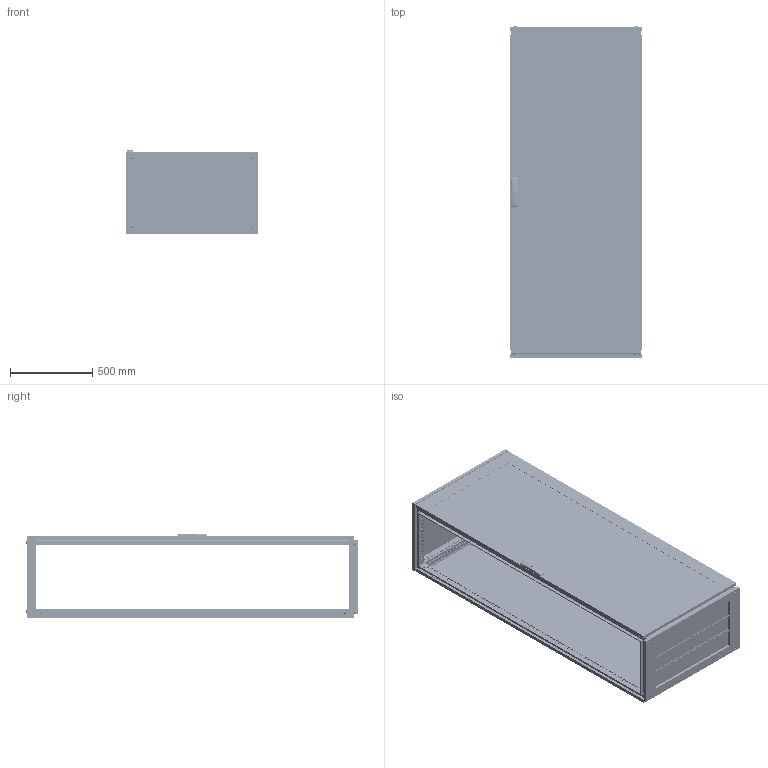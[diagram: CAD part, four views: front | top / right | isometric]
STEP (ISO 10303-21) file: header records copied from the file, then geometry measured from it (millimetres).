
FILE_DESCRIPTION (( 'STEP AP203' ), '1' );
FILE_NAME ('R5CQEN2085AX.STEP', '2025-05-07T12:09:09', ( '' ), ( '' ), 'SwSTEP 2.0', 'SolidWorks 2022', '' );
FILE_SCHEMA (( 'CONFIG_CONTROL_DESIGN' ));
Length unit declared in the file: millimetre
Products named in the file (65): M6x10 DIN 7500 M Torx cl.5.8 Zinc_straight; TPA.08.0084.00.00.0 simple; R5CQEN2085AX; RB.2969.00.00.0 СБ simple; TPA.08.0139.00.03.0; М6х12 A5100231_straight; RB.1867.01.01.0 simple_-40; TPA.08.0139.00.01.0 simple; Pressing stud FH-M6-12_M6x12mm; RB.0528.00.01.0 simple_-05; RB.1633.00.01.0 simple_-03; RB.2686.00.00.0 simple; M6x10 DIN 912 HX cl.8,8 Zinc_straight; RB.1957.00.00.0 simple_-10; R5NCPTE - Assem simple_R5NCPTE2080; 4.8x13 DIN 7981 PH Zinc_straight; PF 7x14 CRE simple_2000x0800; RB.2680.00.02.0 simple; RB.2357.00.00.0 simple_-05; M8x12 AC00C476 cl.8,8 Zinc_stright; RB.2680.00.01.0 simple; 7 DIN 6799 Zinc; R5NCRE-Assem simple_R5NCRE2080; M12x16 ISO 7380-1 HX cl.4,8 Zinc_straight; RB.2755.00.00.0 СБ simple_-19; RB.2455.00.00.0 simple_-03; 4,0x16 F Torx Zinc (ART 88200)_thread; RB.2680.00.00.0 СБ simple; AC00C446-R; M6x15 Erickson cl.4,8 Zinc; RB.2172.00.00.1 simple; TPA.08.0083.00.00.0 simple; R5NKTB - Assem simple_H=2000 R5NKTB85; RB.2685.00.00.0 simple_-01; Glass CPTE_2000x0800; RB.2499.01.00.0 СБ simple_-18; RB.2052.00.00.0 СБ simple_-24; RB.2457.00.00.0 СБ simple_-19; PF 7,5x15 CPE simple_2000x0800; RB.0528.04.01.0 simple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
Assembly tree (173 placements, depth 5):
  R5CQEN2085AX
    R5NCPTE - Assem simple_R5NCPTE2080
      RB.0562.00.00.0 СБ simple_-16
        RB.0562.01.00.0 СБ simple_-16
          RB.0562.01.01.0 simple_-16
          М6х12 A5100231_straight  x7
          RB.2702.00.00.0 simple  x4
          PF 7,5x15 CPE simple_2000x0800
          Glass CPTE_2000x0800
          Glue CPTE simple_2000x0800
        Square cap 20x20 simple  x2
        M6x15 Erickson cl.4,8 Zinc  x2
        RB.0528.00.01.0 simple_-05  x2
        ATOS Traction guide ILY03.35  x4
        RB.2357.00.00.0 simple_-05
        RB.2680.00.00.0 СБ simple
          TPA.08.0139.00.01.0 simple
          RB.2680.00.01.0 simple
          RB.2680.00.02.0 simple  x2
        TPA.08.0139.00.03.0  x2
        M6 DIN 985 cl.6,0 Zinc_straight  x4
        4,0x16 F Torx Zinc (ART 88200)_thread  x2
        RB.0528.04.00.0 СБ simple  x2
          RB.0528.04.01.0 simple
          Pressing stud FH-M6-12_M6x12mm
      M6x10 DIN 912 HX cl.8,8 Zinc_straight  x8
      4.8x13 DIN 7981 PH Zinc_straight
      7 DIN 6799 Zinc simple  x4
      RB.2968.00.00.0 simple  x4
      RB.2969.00.00.0 СБ simple  x4
        RB.2969.00.01.0 simple
        Pin 4x16 DIN 7 AISI 303 (A1) simple
        M6 MGR-MKO-0625 simple_Thread
      AC00C446-R
      RB.2696.00.00.0 simple  x4
      7 DIN 6799 Zinc  x4
    R5NCRE-Assem simple_R5NCRE2080
      RB.2052.00.00.0 СБ simple_-24
        RB.2052.01.00.0 СБ simple_-24
          RB.0054.01.01.0 simple_-24
          М6х12 A5100231_straight  x4
        PF 7x14 CRE simple_2000x0800
      RB.2172.00.00.1 simple  x8
      M6x10 DIN 7500 E HX cl.5.8 Zinc_straight  x8
      M6x10 DIN 7500 M Torx cl.5.8 Zinc_straight  x8
    R5NKMN - Assem simple_R5NKMN20 (800х500)
      RB.2528.00.00.0 simple_-05  x4
    R5NKTB - Assem simple_H=2000 R5NKTB85
      RB.2499.00.00.0 СБ simple_-19
        RB.2499.01.00.0 СБ simple_-18
          RB.1633.00.01.0 simple_-03  x2
          RB.1633.00.02.0 simple_-01  x2
          PF 5x10 KTB simple_800х500
        RB.2457.00.00.0 СБ simple_-19
          RB.2455.00.00.0 simple_-03  x2
          RB.2456.00.00.0 simple_-01  x2
          TPA.08.0084.00.00.0 simple  x2
          TPA.08.0083.00.00.0 simple  x2
          M8x12 AC00C476 cl.8,8 Zinc_stright  x4
        RB.1957.00.00.0 simple_-10  x3
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Bounding box: 800 x 2013.3 x 514.79 mm (x, y, z)
Volume: 17726294.1 mm3; surface area: 15101280.8 mm2
Topology: 176 solids, 192 shells, 22625 faces, 64171 edges, 42283 vertices
Faces by surface type: plane 12635, cylinder 8449, cone 704, bspline 435, torus 368, sphere 34
Entity records: 225705 total; most frequent: CARTESIAN_POINT 55643, ORIENTED_EDGE 33730, DIRECTION 32195, EDGE_CURVE 16891, VERTEX_POINT 11186, AXIS2_PLACEMENT_3D 10809, LINE 10577, VECTOR 10577
